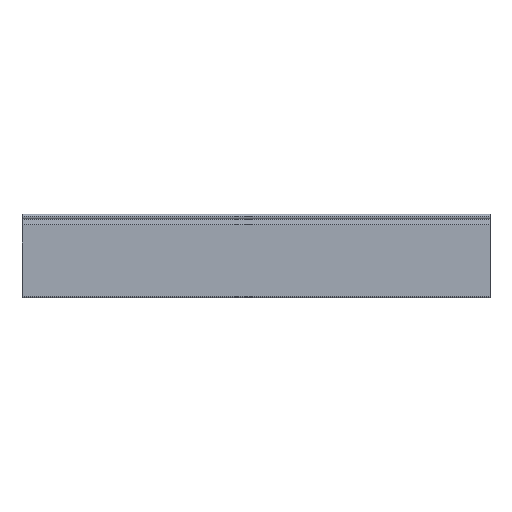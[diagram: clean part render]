
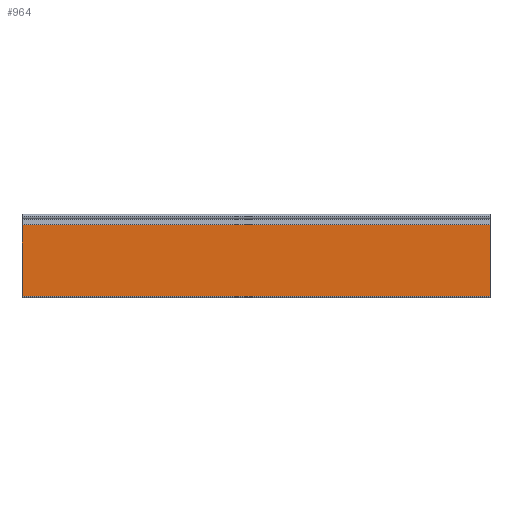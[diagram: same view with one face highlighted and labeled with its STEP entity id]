
A CAD part, top view. The second image highlights one B-rep face of the part: STEP entity #964.
In plain terms, the highlighted planar face has unit normal (0, 0, 1).
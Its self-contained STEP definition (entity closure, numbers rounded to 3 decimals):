
#28 = EDGE_CURVE ( 'NONE', #433, #444, #585, .T. ) ;
#86 = EDGE_CURVE ( 'NONE', #486, #464, #678, .T. ) ;
#95 = EDGE_CURVE ( 'NONE', #444, #464, #696, .T. ) ;
#98 = EDGE_CURVE ( 'NONE', #433, #486, #702, .T. ) ;
#184 = CARTESIAN_POINT ( 'NONE',  ( 358., -12.164, 4.05 ) ) ;
#195 = CARTESIAN_POINT ( 'NONE',  ( 358., -121.663, 4.05 ) ) ;
#215 = CARTESIAN_POINT ( 'NONE',  ( -358., -121.663, 4.05 ) ) ;
#237 = CARTESIAN_POINT ( 'NONE',  ( -358., -12.164, 4.05 ) ) ;
#278 = CARTESIAN_POINT ( 'NONE',  ( 358., -12.164, 4.05 ) ) ;
#279 = PLANE ( 'NONE',  #1026 ) ;
#281 = DIRECTION ( 'NONE',  ( 0., 0., -1. ) ) ;
#282 = DIRECTION ( 'NONE',  ( 0., 1., 0. ) ) ;
#433 = VERTEX_POINT ( 'NONE', #184 ) ;
#444 = VERTEX_POINT ( 'NONE', #195 ) ;
#464 = VERTEX_POINT ( 'NONE', #215 ) ;
#486 = VERTEX_POINT ( 'NONE', #237 ) ;
#541 = CARTESIAN_POINT ( 'NONE',  ( 358., -12.164, 4.05 ) ) ;
#542 = DIRECTION ( 'NONE',  ( 0., -1., 0. ) ) ;
#585 = LINE ( 'NONE', #541, #586 ) ;
#586 = VECTOR ( 'NONE', #542, 1000. ) ;
#678 = LINE ( 'NONE', #828, #679 ) ;
#679 = VECTOR ( 'NONE', #829, 1000. ) ;
#696 = LINE ( 'NONE', #847, #697 ) ;
#697 = VECTOR ( 'NONE', #848, 1000. ) ;
#702 = LINE ( 'NONE', #853, #703 ) ;
#703 = VECTOR ( 'NONE', #854, 1000. ) ;
#828 = CARTESIAN_POINT ( 'NONE',  ( -358., -12.164, 4.05 ) ) ;
#829 = DIRECTION ( 'NONE',  ( 0., -1., 0. ) ) ;
#847 = CARTESIAN_POINT ( 'NONE',  ( 358., -121.663, 4.05 ) ) ;
#848 = DIRECTION ( 'NONE',  ( -1., 0., 0. ) ) ;
#853 = CARTESIAN_POINT ( 'NONE',  ( 358., -12.164, 4.05 ) ) ;
#854 = DIRECTION ( 'NONE',  ( -1., 0., 0. ) ) ;
#903 = FACE_OUTER_BOUND ( 'NONE', #1084, .T. ) ;
#964 = ADVANCED_FACE ( 'NONE', ( #903 ), #279, .F. ) ;
#1026 = AXIS2_PLACEMENT_3D ( 'NONE', #278, #281, #282 ) ;
#1084 = EDGE_LOOP ( 'NONE', ( #1283, #1282, #1281, #1280 ) ) ;
#1280 = ORIENTED_EDGE ( 'NONE', *, *, #98, .T. ) ;
#1281 = ORIENTED_EDGE ( 'NONE', *, *, #28, .F. ) ;
#1282 = ORIENTED_EDGE ( 'NONE', *, *, #95, .F. ) ;
#1283 = ORIENTED_EDGE ( 'NONE', *, *, #86, .T. ) ;
